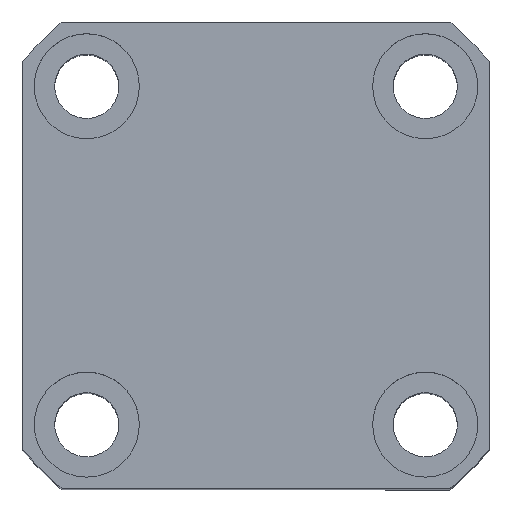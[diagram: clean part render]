
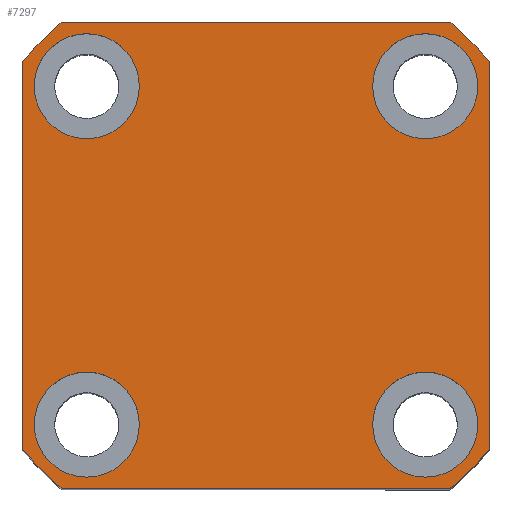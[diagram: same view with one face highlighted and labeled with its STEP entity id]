
A CAD part, top view. The second image highlights one B-rep face of the part: STEP entity #7297.
In plain terms, the highlighted planar face has unit normal (0, 0, 1).
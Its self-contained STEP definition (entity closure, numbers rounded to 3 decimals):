
#191 = AXIS2_PLACEMENT_3D ( 'NONE', #1484, #12473, #4884 ) ;
#295 = CARTESIAN_POINT ( 'NONE',  ( 33.226, 40., 57.5 ) ) ;
#364 = CARTESIAN_POINT ( 'NONE',  ( 29., -29., 57.5 ) ) ;
#605 = ORIENTED_EDGE ( 'NONE', *, *, #8600, .T. ) ;
#734 = ORIENTED_EDGE ( 'NONE', *, *, #13484, .F. ) ;
#945 = CIRCLE ( 'NONE', #7140, 9. ) ;
#1011 = DIRECTION ( 'NONE',  ( 0., 0., 1. ) ) ;
#1183 = ORIENTED_EDGE ( 'NONE', *, *, #8198, .T. ) ;
#1200 = EDGE_LOOP ( 'NONE', ( #734, #13239 ) ) ;
#1324 = CARTESIAN_POINT ( 'NONE',  ( -20., 29., 57.5 ) ) ;
#1484 = CARTESIAN_POINT ( 'NONE',  ( -29., -29., 57.5 ) ) ;
#1584 = VERTEX_POINT ( 'NONE', #9156 ) ;
#1626 = CIRCLE ( 'NONE', #2504, 9. ) ;
#1641 = EDGE_CURVE ( 'NONE', #7521, #9500, #10151, .T. ) ;
#1909 = FACE_BOUND ( 'NONE', #1200, .T. ) ;
#1920 = ORIENTED_EDGE ( 'NONE', *, *, #3392, .F. ) ;
#1926 = EDGE_CURVE ( 'NONE', #7797, #13146, #5870, .T. ) ;
#2012 = AXIS2_PLACEMENT_3D ( 'NONE', #6787, #6686, #7788 ) ;
#2072 = CARTESIAN_POINT ( 'NONE',  ( -38., 29., 57.5 ) ) ;
#2087 = CARTESIAN_POINT ( 'NONE',  ( 40., -33.226, 57.5 ) ) ;
#2181 = DIRECTION ( 'NONE',  ( 0., 0., 1. ) ) ;
#2464 = AXIS2_PLACEMENT_3D ( 'NONE', #3986, #10412, #12668 ) ;
#2504 = AXIS2_PLACEMENT_3D ( 'NONE', #10860, #13982, #8516 ) ;
#2537 = VERTEX_POINT ( 'NONE', #295 ) ;
#2561 = DIRECTION ( 'NONE',  ( 0., 0., 1. ) ) ;
#2818 = DIRECTION ( 'NONE',  ( 0., 0., 1. ) ) ;
#2833 = VERTEX_POINT ( 'NONE', #11572 ) ;
#3166 = DIRECTION ( 'NONE',  ( 1., 0., 0. ) ) ;
#3255 = CIRCLE ( 'NONE', #2464, 52. ) ;
#3376 = EDGE_CURVE ( 'NONE', #13223, #2833, #945, .T. ) ;
#3392 = EDGE_CURVE ( 'NONE', #13097, #9763, #1626, .T. ) ;
#3443 = FACE_OUTER_BOUND ( 'NONE', #4516, .T. ) ;
#3448 = VERTEX_POINT ( 'NONE', #2087 ) ;
#3530 = CARTESIAN_POINT ( 'NONE',  ( 40., 33.226, 57.5 ) ) ;
#3627 = CIRCLE ( 'NONE', #2012, 9. ) ;
#3665 = EDGE_CURVE ( 'NONE', #9500, #7521, #13593, .T. ) ;
#3764 = EDGE_CURVE ( 'NONE', #12486, #7797, #9817, .T. ) ;
#3879 = DIRECTION ( 'NONE',  ( -1., 0., 0. ) ) ;
#3897 = CIRCLE ( 'NONE', #8759, 52. ) ;
#3931 = EDGE_CURVE ( 'NONE', #2833, #13223, #7781, .T. ) ;
#3986 = CARTESIAN_POINT ( 'NONE',  ( 0., 0., 57.5 ) ) ;
#4494 = CIRCLE ( 'NONE', #10578, 9. ) ;
#4516 = EDGE_LOOP ( 'NONE', ( #10052, #1183, #11099, #9774, #605, #9631, #5768, #9267 ) ) ;
#4777 = EDGE_LOOP ( 'NONE', ( #9730, #10476 ) ) ;
#4803 = FACE_BOUND ( 'NONE', #11341, .T. ) ;
#4884 = DIRECTION ( 'NONE',  ( 1., 0., 0. ) ) ;
#5180 = DIRECTION ( 'NONE',  ( 1., 0., 0. ) ) ;
#5237 = CARTESIAN_POINT ( 'NONE',  ( 33.226, -40., 57.5 ) ) ;
#5274 = VECTOR ( 'NONE', #7472, 1000. ) ;
#5329 = CARTESIAN_POINT ( 'NONE',  ( 29., 29., 57.5 ) ) ;
#5361 = DIRECTION ( 'NONE',  ( 1., 0., 0. ) ) ;
#5726 = CARTESIAN_POINT ( 'NONE',  ( -29., -29., 57.5 ) ) ;
#5768 = ORIENTED_EDGE ( 'NONE', *, *, #10783, .T. ) ;
#5825 = CARTESIAN_POINT ( 'NONE',  ( 0., 0., 57.5 ) ) ;
#5870 = LINE ( 'NONE', #10744, #7263 ) ;
#6036 = CARTESIAN_POINT ( 'NONE',  ( -29., 29., 57.5 ) ) ;
#6320 = LINE ( 'NONE', #8666, #5274 ) ;
#6323 = CARTESIAN_POINT ( 'NONE',  ( 29., 29., 57.5 ) ) ;
#6619 = EDGE_CURVE ( 'NONE', #1584, #9276, #4494, .T. ) ;
#6686 = DIRECTION ( 'NONE',  ( 0., 0., 1. ) ) ;
#6697 = FACE_BOUND ( 'NONE', #4777, .T. ) ;
#6787 = CARTESIAN_POINT ( 'NONE',  ( 29., -29., 57.5 ) ) ;
#6808 = DIRECTION ( 'NONE',  ( 1., 0., 0. ) ) ;
#6907 = CARTESIAN_POINT ( 'NONE',  ( 0., 0., 57.5 ) ) ;
#7011 = ORIENTED_EDGE ( 'NONE', *, *, #3376, .F. ) ;
#7123 = DIRECTION ( 'NONE',  ( 1., 0., 0. ) ) ;
#7140 = AXIS2_PLACEMENT_3D ( 'NONE', #6323, #2181, #5361 ) ;
#7263 = VECTOR ( 'NONE', #12812, 1000. ) ;
#7279 = DIRECTION ( 'NONE',  ( 1., 0., 0. ) ) ;
#7297 = ADVANCED_FACE ( 'NONE', ( #1909, #6697, #4803, #13195, #3443 ), #10138, .T. ) ;
#7472 = DIRECTION ( 'NONE',  ( 0., -1., 0. ) ) ;
#7521 = VERTEX_POINT ( 'NONE', #10197 ) ;
#7781 = CIRCLE ( 'NONE', #10215, 9. ) ;
#7788 = DIRECTION ( 'NONE',  ( 1., 0., 0. ) ) ;
#7797 = VERTEX_POINT ( 'NONE', #10589 ) ;
#7934 = DIRECTION ( 'NONE',  ( 0., 1., 0. ) ) ;
#7973 = DIRECTION ( 'NONE',  ( 0., 0., 1. ) ) ;
#8009 = DIRECTION ( 'NONE',  ( 1., 0., 0. ) ) ;
#8121 = AXIS2_PLACEMENT_3D ( 'NONE', #12090, #14157, #3166 ) ;
#8165 = VECTOR ( 'NONE', #7934, 1000. ) ;
#8198 = EDGE_CURVE ( 'NONE', #8582, #12486, #6320, .T. ) ;
#8299 = DIRECTION ( 'NONE',  ( 0., 0., 1. ) ) ;
#8508 = CARTESIAN_POINT ( 'NONE',  ( -33.226, 40., 57.5 ) ) ;
#8516 = DIRECTION ( 'NONE',  ( 1., 0., 0. ) ) ;
#8582 = VERTEX_POINT ( 'NONE', #9039 ) ;
#8600 = EDGE_CURVE ( 'NONE', #13146, #3448, #3255, .T. ) ;
#8647 = DIRECTION ( 'NONE',  ( 1., 0., 0. ) ) ;
#8666 = CARTESIAN_POINT ( 'NONE',  ( -40., 33.226, 57.5 ) ) ;
#8759 = AXIS2_PLACEMENT_3D ( 'NONE', #5825, #9143, #7123 ) ;
#8792 = EDGE_CURVE ( 'NONE', #12188, #8582, #11266, .T. ) ;
#9036 = DIRECTION ( 'NONE',  ( 0., 0., 1. ) ) ;
#9039 = CARTESIAN_POINT ( 'NONE',  ( -40., 33.226, 57.5 ) ) ;
#9143 = DIRECTION ( 'NONE',  ( 0., 0., 1. ) ) ;
#9156 = CARTESIAN_POINT ( 'NONE',  ( 20., -29., 57.5 ) ) ;
#9204 = EDGE_CURVE ( 'NONE', #9763, #13097, #12990, .T. ) ;
#9267 = ORIENTED_EDGE ( 'NONE', *, *, #13001, .T. ) ;
#9268 = CARTESIAN_POINT ( 'NONE',  ( -33.226, 40., 57.5 ) ) ;
#9276 = VERTEX_POINT ( 'NONE', #13795 ) ;
#9416 = CARTESIAN_POINT ( 'NONE',  ( -20., -29., 57.5 ) ) ;
#9470 = EDGE_LOOP ( 'NONE', ( #7011, #12499 ) ) ;
#9492 = AXIS2_PLACEMENT_3D ( 'NONE', #5726, #9036, #6808 ) ;
#9500 = VERTEX_POINT ( 'NONE', #9416 ) ;
#9631 = ORIENTED_EDGE ( 'NONE', *, *, #10252, .T. ) ;
#9730 = ORIENTED_EDGE ( 'NONE', *, *, #3665, .F. ) ;
#9763 = VERTEX_POINT ( 'NONE', #1324 ) ;
#9774 = ORIENTED_EDGE ( 'NONE', *, *, #1926, .T. ) ;
#9817 = CIRCLE ( 'NONE', #12421, 52. ) ;
#10003 = DIRECTION ( 'NONE',  ( 1., 0., 0. ) ) ;
#10052 = ORIENTED_EDGE ( 'NONE', *, *, #8792, .T. ) ;
#10138 = PLANE ( 'NONE',  #13343 ) ;
#10151 = CIRCLE ( 'NONE', #191, 9. ) ;
#10197 = CARTESIAN_POINT ( 'NONE',  ( -38., -29., 57.5 ) ) ;
#10215 = AXIS2_PLACEMENT_3D ( 'NONE', #5329, #1011, #8647 ) ;
#10252 = EDGE_CURVE ( 'NONE', #3448, #14106, #13493, .T. ) ;
#10305 = AXIS2_PLACEMENT_3D ( 'NONE', #6036, #2818, #7279 ) ;
#10412 = DIRECTION ( 'NONE',  ( 0., 0., 1. ) ) ;
#10476 = ORIENTED_EDGE ( 'NONE', *, *, #1641, .F. ) ;
#10578 = AXIS2_PLACEMENT_3D ( 'NONE', #364, #7973, #8009 ) ;
#10589 = CARTESIAN_POINT ( 'NONE',  ( -33.226, -40., 57.5 ) ) ;
#10744 = CARTESIAN_POINT ( 'NONE',  ( -33.226, -40., 57.5 ) ) ;
#10783 = EDGE_CURVE ( 'NONE', #14106, #2537, #3897, .T. ) ;
#10860 = CARTESIAN_POINT ( 'NONE',  ( -29., 29., 57.5 ) ) ;
#11099 = ORIENTED_EDGE ( 'NONE', *, *, #3764, .T. ) ;
#11266 = CIRCLE ( 'NONE', #8121, 52. ) ;
#11285 = CARTESIAN_POINT ( 'NONE',  ( 40., 33.226, 57.5 ) ) ;
#11341 = EDGE_LOOP ( 'NONE', ( #12367, #1920 ) ) ;
#11493 = VECTOR ( 'NONE', #3879, 1000. ) ;
#11572 = CARTESIAN_POINT ( 'NONE',  ( 20., 29., 57.5 ) ) ;
#11998 = CARTESIAN_POINT ( 'NONE',  ( 38., 29., 57.5 ) ) ;
#12090 = CARTESIAN_POINT ( 'NONE',  ( 0., 0., 57.5 ) ) ;
#12188 = VERTEX_POINT ( 'NONE', #8508 ) ;
#12340 = LINE ( 'NONE', #9268, #11493 ) ;
#12367 = ORIENTED_EDGE ( 'NONE', *, *, #9204, .F. ) ;
#12421 = AXIS2_PLACEMENT_3D ( 'NONE', #13956, #8299, #5180 ) ;
#12473 = DIRECTION ( 'NONE',  ( 0., 0., 1. ) ) ;
#12486 = VERTEX_POINT ( 'NONE', #12823 ) ;
#12499 = ORIENTED_EDGE ( 'NONE', *, *, #3931, .F. ) ;
#12668 = DIRECTION ( 'NONE',  ( 1., 0., 0. ) ) ;
#12812 = DIRECTION ( 'NONE',  ( 1., 0., 0. ) ) ;
#12823 = CARTESIAN_POINT ( 'NONE',  ( -40., -33.226, 57.5 ) ) ;
#12990 = CIRCLE ( 'NONE', #10305, 9. ) ;
#13001 = EDGE_CURVE ( 'NONE', #2537, #12188, #12340, .T. ) ;
#13097 = VERTEX_POINT ( 'NONE', #2072 ) ;
#13146 = VERTEX_POINT ( 'NONE', #5237 ) ;
#13195 = FACE_BOUND ( 'NONE', #9470, .T. ) ;
#13223 = VERTEX_POINT ( 'NONE', #11998 ) ;
#13239 = ORIENTED_EDGE ( 'NONE', *, *, #6619, .F. ) ;
#13343 = AXIS2_PLACEMENT_3D ( 'NONE', #6907, #2561, #10003 ) ;
#13484 = EDGE_CURVE ( 'NONE', #9276, #1584, #3627, .T. ) ;
#13493 = LINE ( 'NONE', #3530, #8165 ) ;
#13593 = CIRCLE ( 'NONE', #9492, 9. ) ;
#13795 = CARTESIAN_POINT ( 'NONE',  ( 38., -29., 57.5 ) ) ;
#13956 = CARTESIAN_POINT ( 'NONE',  ( 0., 0., 57.5 ) ) ;
#13982 = DIRECTION ( 'NONE',  ( 0., 0., 1. ) ) ;
#14106 = VERTEX_POINT ( 'NONE', #11285 ) ;
#14157 = DIRECTION ( 'NONE',  ( 0., 0., 1. ) ) ;
